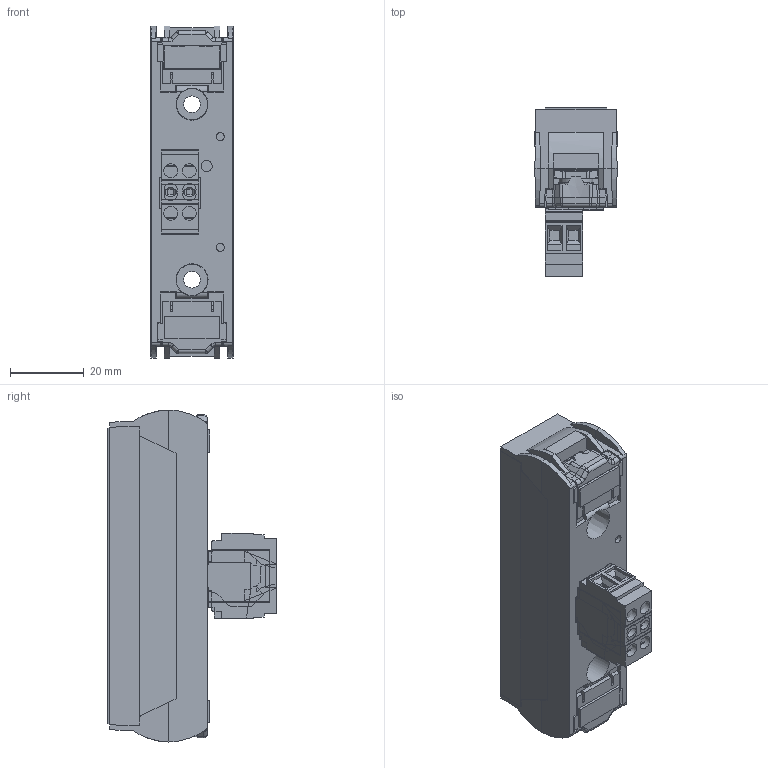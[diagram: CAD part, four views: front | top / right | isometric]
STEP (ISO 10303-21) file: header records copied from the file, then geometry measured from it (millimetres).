
FILE_DESCRIPTION((''),'2;1');
FILE_NAME('R:\Stock\3D pour clients\CELDUC references\2D3D 570 B and connectors.stp','2012-07-10T11:27:09',('Georges THOLLOT ','Tl : +33 (0)4 77 53 90 27','gthollot@celduc.com'),('Celduc r e l a i s','5, rue Ampre, BP 30004','42290 SORBIERS - France','Fax. : +33 (0)4 77 53 85 51','N siret 353 310 519 00015','ISO 9001 N QUAL/1993/1106b','www.celduc.com'),'Autodesk Inventor 2010','Autodesk Inventor 2010','');
FILE_SCHEMA(('CONFIG_CONTROL_DESIGN'));
Length unit declared in the file: millimetre
Products named in the file (9): SU and connectors; SU; BLZF 5.08/2/90 SN SW 1671020000; BLZ 5.08/2 SN SW 1526410000; BLZ 5.08/2/90 SN SW 1552710000; 1741870000 BLZ 5.08/2/225 SN SW; BLDT 5.08/2 SN SW 1660710000; BLZF 5.08/2/270 SN SW 1672170000; BLZ 5.08/2/270 SN SW 1557310000
Assembly tree (8 placements, depth 2):
  SU and connectors
    SU
    BLZF 5.08/2/90 SN SW 1671020000
    BLZ 5.08/2 SN SW 1526410000
    BLZ 5.08/2/90 SN SW 1552710000
    1741870000 BLZ 5.08/2/225 SN SW
    BLDT 5.08/2 SN SW 1660710000
    BLZF 5.08/2/270 SN SW 1672170000
    BLZ 5.08/2/270 SN SW 1557310000
Bounding box: 22.3 x 45.66 x 90 mm (x, y, z)
Volume: 64332.9 mm3; surface area: 27266.6 mm2
Topology: 8 solids, 8 shells, 1278 faces, 3353 edges, 2140 vertices
Faces by surface type: plane 873, bspline 166, cylinder 158, cone 65, torus 10, sphere 6
Full cylindrical faces by diameter (mm): 3 x1, 3.6 x6, 3.8 x6, 3.9 x10, 4.5 x1, 5 x2, 5.5 x1, 8.734 x2, 9.2 x2
Entity records: 41557 total; most frequent: CARTESIAN_POINT 10136, ORIENTED_EDGE 6472, DIRECTION 5806, EDGE_CURVE 3236, VECTOR 2560, LINE 2560, VERTEX_POINT 2112, AXIS2_PLACEMENT_3D 1623
